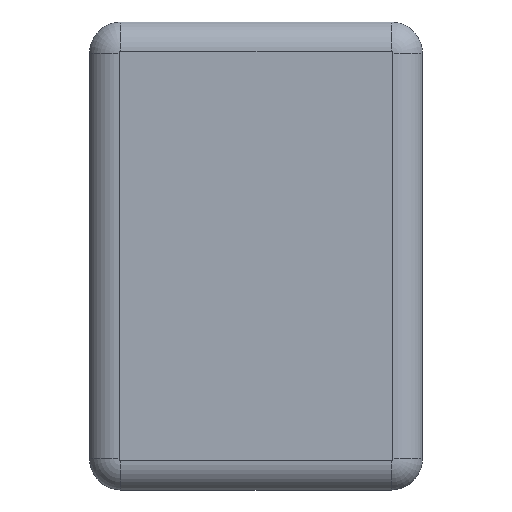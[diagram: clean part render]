
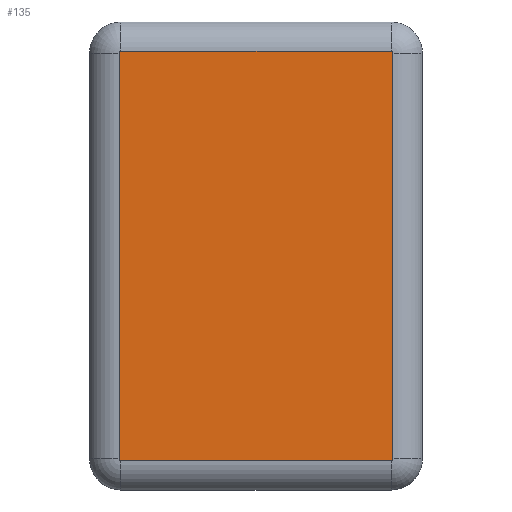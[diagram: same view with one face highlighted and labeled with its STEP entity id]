
A CAD part, top view. The second image highlights one B-rep face of the part: STEP entity #135.
In plain terms, the highlighted planar face has unit normal (0, 0, 1).
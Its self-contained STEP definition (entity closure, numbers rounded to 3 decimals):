
#11 = AXIS2_PLACEMENT_3D ( 'NONE', #194, #392, #498 ) ;
#19 = VECTOR ( 'NONE', #585, 1000. ) ;
#22 = VERTEX_POINT ( 'NONE', #31 ) ;
#31 = CARTESIAN_POINT ( 'NONE',  ( 13., 19.672, 2. ) ) ;
#39 = DIRECTION ( 'NONE',  ( 1., 0., 0. ) ) ;
#44 = DIRECTION ( 'NONE',  ( 1., 0., 0. ) ) ;
#45 = VECTOR ( 'NONE', #188, 1000. ) ;
#60 = VERTEX_POINT ( 'NONE', #371 ) ;
#78 = VERTEX_POINT ( 'NONE', #462 ) ;
#85 = AXIS2_PLACEMENT_3D ( 'NONE', #385, #288, #39 ) ;
#101 = CARTESIAN_POINT ( 'NONE',  ( -13., -19.672, 2. ) ) ;
#119 = ORIENTED_EDGE ( 'NONE', *, *, #124, .T. ) ;
#124 = EDGE_CURVE ( 'NONE', #78, #626, #337, .T. ) ;
#133 = ORIENTED_EDGE ( 'NONE', *, *, #217, .T. ) ;
#134 = ORIENTED_EDGE ( 'NONE', *, *, #376, .T. ) ;
#135 = ADVANCED_FACE ( 'NONE', ( #142 ), #391, .T. ) ;
#138 = CIRCLE ( 'NONE', #494, 0.172 ) ;
#142 = FACE_OUTER_BOUND ( 'NONE', #473, .T. ) ;
#155 = EDGE_CURVE ( 'NONE', #378, #262, #292, .T. ) ;
#174 = EDGE_CURVE ( 'NONE', #606, #60, #243, .T. ) ;
#187 = CARTESIAN_POINT ( 'NONE',  ( -13., -19.5, 2. ) ) ;
#188 = DIRECTION ( 'NONE',  ( 0., -1., 0. ) ) ;
#194 = CARTESIAN_POINT ( 'NONE',  ( 13., -19.5, 2. ) ) ;
#205 = AXIS2_PLACEMENT_3D ( 'NONE', #187, #336, #478 ) ;
#208 = CARTESIAN_POINT ( 'NONE',  ( -13., 19.672, 2. ) ) ;
#217 = EDGE_CURVE ( 'NONE', #60, #378, #283, .T. ) ;
#224 = EDGE_CURVE ( 'NONE', #626, #22, #634, .T. ) ;
#226 = ORIENTED_EDGE ( 'NONE', *, *, #174, .T. ) ;
#243 = LINE ( 'NONE', #430, #45 ) ;
#247 = DIRECTION ( 'NONE',  ( 0., 0., 1. ) ) ;
#249 = ORIENTED_EDGE ( 'NONE', *, *, #224, .T. ) ;
#255 = CARTESIAN_POINT ( 'NONE',  ( -13., 19.672, 2. ) ) ;
#262 = VERTEX_POINT ( 'NONE', #290 ) ;
#283 = CIRCLE ( 'NONE', #205, 0.172 ) ;
#288 = DIRECTION ( 'NONE',  ( 0., 0., 1. ) ) ;
#290 = CARTESIAN_POINT ( 'NONE',  ( 13., -19.672, 2. ) ) ;
#292 = LINE ( 'NONE', #617, #433 ) ;
#309 = DIRECTION ( 'NONE',  ( 0., 0., 1. ) ) ;
#310 = EDGE_CURVE ( 'NONE', #262, #78, #602, .T. ) ;
#313 = CARTESIAN_POINT ( 'NONE',  ( -13.172, 19.5, 2. ) ) ;
#316 = CARTESIAN_POINT ( 'NONE',  ( 13.172, 19.5, 2. ) ) ;
#336 = DIRECTION ( 'NONE',  ( 0., 0., 1. ) ) ;
#337 = LINE ( 'NONE', #483, #510 ) ;
#354 = EDGE_CURVE ( 'NONE', #448, #606, #138, .T. ) ;
#371 = CARTESIAN_POINT ( 'NONE',  ( -13.172, -19.5, 2. ) ) ;
#376 = EDGE_CURVE ( 'NONE', #22, #448, #491, .T. ) ;
#378 = VERTEX_POINT ( 'NONE', #101 ) ;
#385 = CARTESIAN_POINT ( 'NONE',  ( 13., 19.5, 2. ) ) ;
#391 = PLANE ( 'NONE',  #451 ) ;
#392 = DIRECTION ( 'NONE',  ( 0., 0., 1. ) ) ;
#430 = CARTESIAN_POINT ( 'NONE',  ( -13.172, -19.5, 2. ) ) ;
#433 = VECTOR ( 'NONE', #44, 1000. ) ;
#435 = CARTESIAN_POINT ( 'NONE',  ( 13., 19.5, 2. ) ) ;
#448 = VERTEX_POINT ( 'NONE', #208 ) ;
#451 = AXIS2_PLACEMENT_3D ( 'NONE', #435, #247, #523 ) ;
#462 = CARTESIAN_POINT ( 'NONE',  ( 13.172, -19.5, 2. ) ) ;
#464 = ORIENTED_EDGE ( 'NONE', *, *, #354, .T. ) ;
#473 = EDGE_LOOP ( 'NONE', ( #134, #464, #226, #133, #506, #497, #119, #249 ) ) ;
#478 = DIRECTION ( 'NONE',  ( 1., 0., 0. ) ) ;
#480 = DIRECTION ( 'NONE',  ( 0., 1., 0. ) ) ;
#483 = CARTESIAN_POINT ( 'NONE',  ( 13.172, 19.5, 2. ) ) ;
#491 = LINE ( 'NONE', #255, #19 ) ;
#494 = AXIS2_PLACEMENT_3D ( 'NONE', #530, #309, #589 ) ;
#497 = ORIENTED_EDGE ( 'NONE', *, *, #310, .T. ) ;
#498 = DIRECTION ( 'NONE',  ( 1., 0., 0. ) ) ;
#506 = ORIENTED_EDGE ( 'NONE', *, *, #155, .T. ) ;
#510 = VECTOR ( 'NONE', #480, 1000. ) ;
#523 = DIRECTION ( 'NONE',  ( 1., 0., 0. ) ) ;
#530 = CARTESIAN_POINT ( 'NONE',  ( -13., 19.5, 2. ) ) ;
#585 = DIRECTION ( 'NONE',  ( -1., 0., 0. ) ) ;
#589 = DIRECTION ( 'NONE',  ( 1., 0., 0. ) ) ;
#602 = CIRCLE ( 'NONE', #11, 0.172 ) ;
#606 = VERTEX_POINT ( 'NONE', #313 ) ;
#617 = CARTESIAN_POINT ( 'NONE',  ( 13., -19.672, 2. ) ) ;
#626 = VERTEX_POINT ( 'NONE', #316 ) ;
#634 = CIRCLE ( 'NONE', #85, 0.172 ) ;
